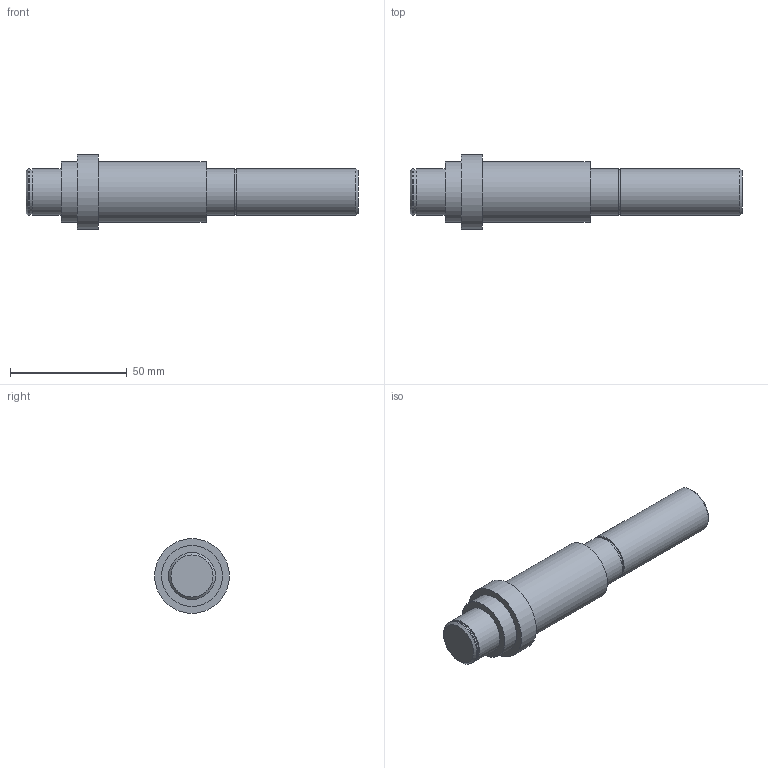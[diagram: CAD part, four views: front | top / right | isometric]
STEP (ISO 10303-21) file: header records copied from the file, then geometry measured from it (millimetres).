
FILE_DESCRIPTION(/* description */ (''),/* implementation_level */ '2;1');
FILE_NAME(/* name */ 'C:\Users\user\Desktop\Ensamble-reductor-sin-engranes-V2022\Eje2.stp',/* time_stamp */ '2023-02-15T20:26:58-05:00',/* author */ ('user'),/* organization */ (''),/* preprocessor_version */ 'ST-DEVELOPER v18.1',/* originating_system */ 'Autodesk Inventor 2022',/* authorisation */ '');
FILE_SCHEMA (('AUTOMOTIVE_DESIGN { 1 0 10303 214 3 1 1 }'));
Length unit declared in the file: millimetre
Products named in the file (1): Shaft
Bounding box: 142 x 32 x 32 mm (x, y, z)
Volume: 60372.3 mm3; surface area: 11925.1 mm2
Topology: 1 solids, 1 shells, 21 faces, 33 edges, 22 vertices
Faces by surface type: plane 10, cylinder 9, cone 2
Full cylindrical faces by diameter (mm): 18.85 x2, 20 x4, 26 x2, 32 x1
Entity records: 530 total; most frequent: DIRECTION 99, CARTESIAN_POINT 77, ORIENTED_EDGE 66, AXIS2_PLACEMENT_3D 44, EDGE_CURVE 33, EDGE_LOOP 29, CIRCLE 22, VERTEX_POINT 22
